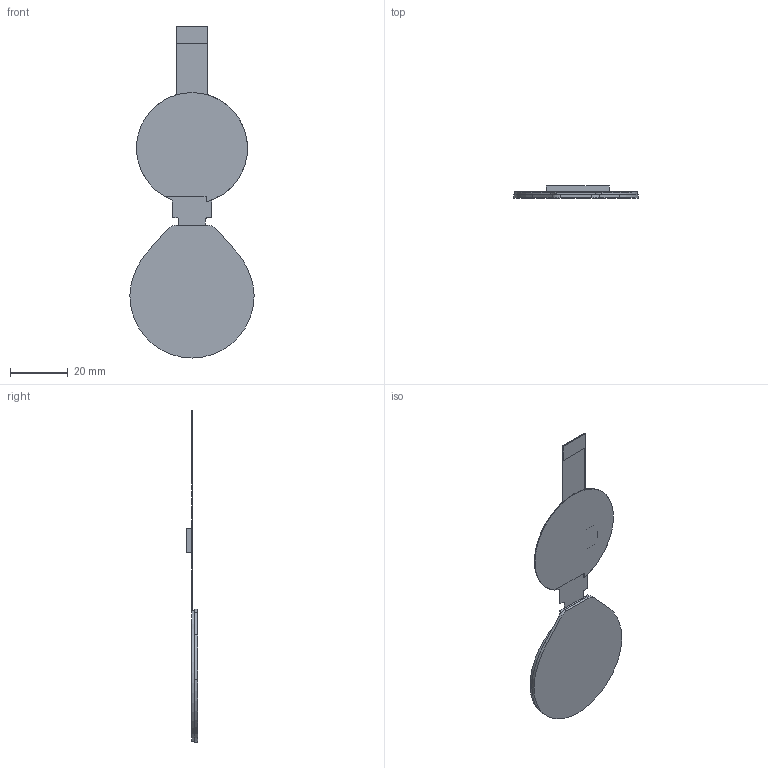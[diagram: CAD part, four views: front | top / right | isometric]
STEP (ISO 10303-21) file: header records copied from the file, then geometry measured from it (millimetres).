
FILE_DESCRIPTION (( 'STEP AP214' ), '1' );
FILE_NAME ('DMG40400F016_06WN馱最芞.STEP', '2023-11-01T06:43:55', ( '' ), ( 'Microsoft' ), 'SwSTEP 2.0', 'SolidWorks 2017', '' );
FILE_SCHEMA (( 'AUTOMOTIVE_DESIGN' ));
Length unit declared in the file: millimetre
Products named in the file (1): DMG40400F016_06WN馱最芞
Bounding box: 42.94 x 4.11 x 114.67 mm (x, y, z)
Volume: 3781.9 mm3; surface area: 8925.3 mm2
Topology: 3 solids, 3 shells, 73 faces, 202 edges, 148 vertices
Faces by surface type: plane 45, cylinder 28
Entity records: 3247 total; most frequent: CARTESIAN_POINT 424, DIRECTION 406, ORIENTED_EDGE 404, EDGE_CURVE 202, VERTEX_POINT 148, VECTOR 146, LINE 146, AXIS2_PLACEMENT_3D 130
